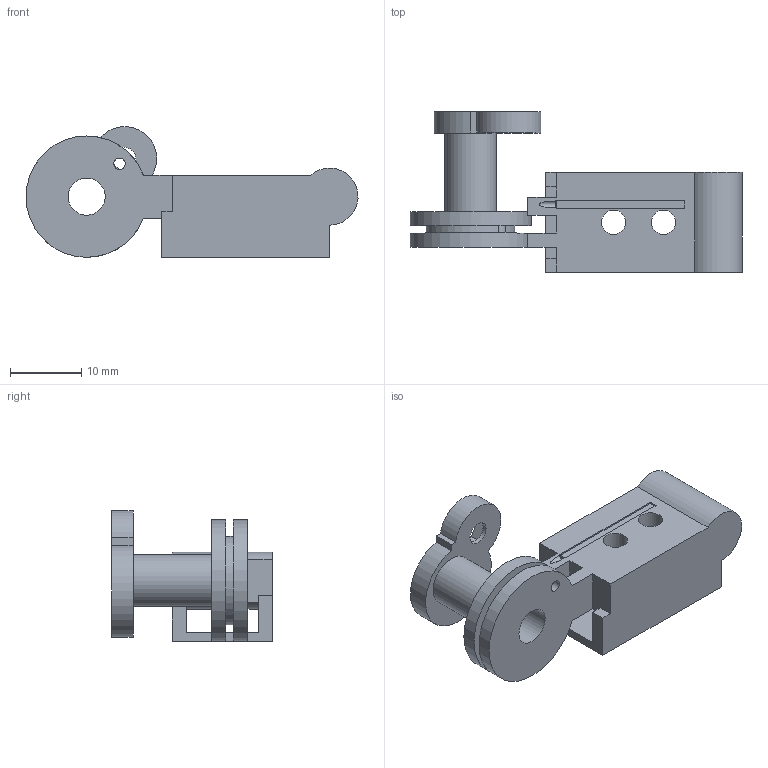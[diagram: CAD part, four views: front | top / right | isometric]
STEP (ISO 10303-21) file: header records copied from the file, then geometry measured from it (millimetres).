
FILE_DESCRIPTION(('Open CASCADE Model'),'2;1');
FILE_NAME('P03-distal.step', '', ('Noah Wilson'), (''), '', '', '');
FILE_SCHEMA(('AUTOMOTIVE_DESIGN { 1 0 10303 214 1 1 1 1 }'));
Length unit declared in the file: millimetre
Products named in the file (1): COMPOUND
Bounding box: 46.49 x 22.5 x 18.3 mm (x, y, z)
Volume: 4366.1 mm3; surface area: 4262.9 mm2
Topology: 1 solids, 1 shells, 68 faces, 190 edges, 126 vertices
Faces by surface type: plane 53, cylinder 15
Full cylindrical faces by diameter (mm): 1.6 x1, 3.2 x1, 3.4 x2, 5.2 x1, 7.2 x1, 17 x1
Entity records: 4641 total; most frequent: CARTESIAN_POINT 921, DIRECTION 647, LINE 404, VECTOR 404, ORIENTED_EDGE 380, PCURVE 380, DEFINITIONAL_REPRESENTATION 380, EDGE_CURVE 190
